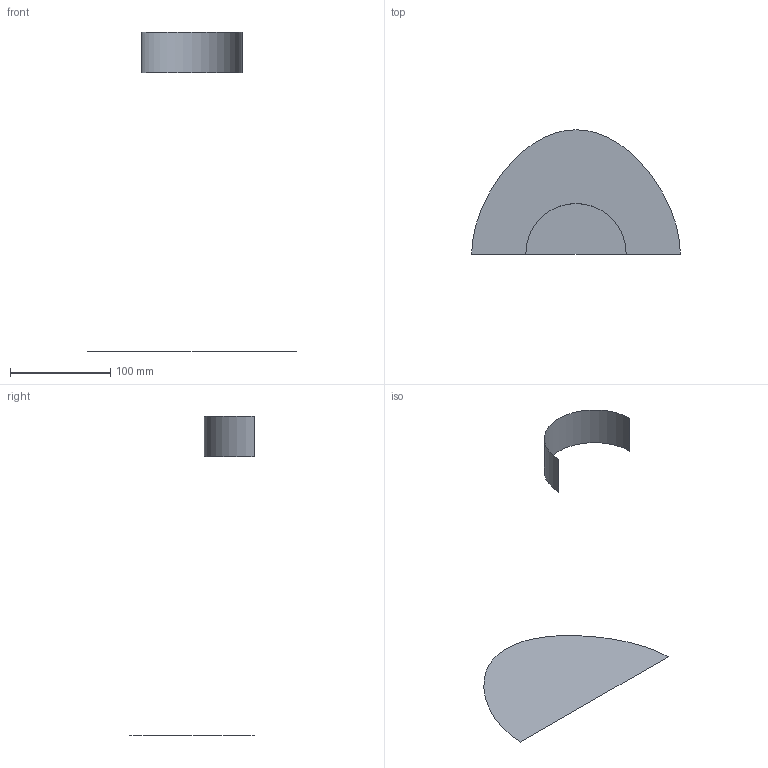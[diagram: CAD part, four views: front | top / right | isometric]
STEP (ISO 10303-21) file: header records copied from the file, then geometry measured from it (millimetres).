
FILE_DESCRIPTION(('CATIA V5 STEP Exchange'),'2;1');
FILE_NAME('C:\_Andres\UNIVERSIDAD\IQS\ASIGNATURAS\DAO\Controles\1617\c1\1original\Homs_Menis_Ej00-base_v14.stp','2017-02-06T16:27:40+00:00',('none'),('none'),'CATIA Version 5-6 Release 2014 SP1 HF18','CATIA V5 STEP AP203','none');
FILE_SCHEMA(('CONFIG_CONTROL_DESIGN'));
Length unit declared in the file: millimetre
Products named in the file (1): Homs_Menis_Ej00-base_v14
Bounding box: 208 x 124 x 318 mm (x, y, z)
Surface area: 25711.5 mm2 (no closed solid volume)
Topology: 0 solids, 2 shells, 2 faces, 16 edges, 26 vertices
Faces by surface type: cylinder 1, plane 1
Entity records: 230 total; most frequent: CARTESIAN_POINT 78, DIRECTION 16, COMPOSITE_CURVE_SEGMENT 9, TRIMMED_CURVE 9, AXIS2_PLACEMENT_3D 8, COMPOSITE_CURVE 7, ORIENTED_EDGE 7, EDGE_CURVE 7
